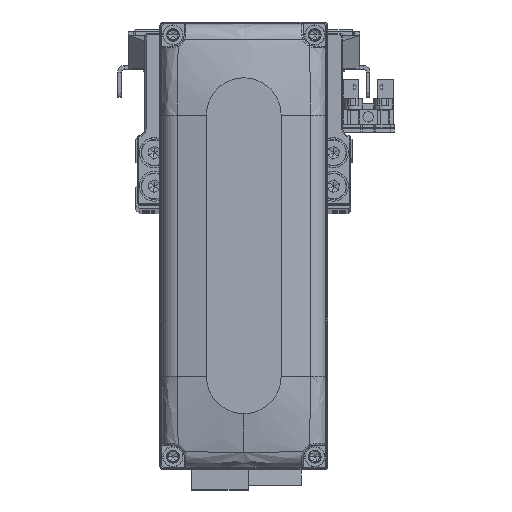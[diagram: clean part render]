
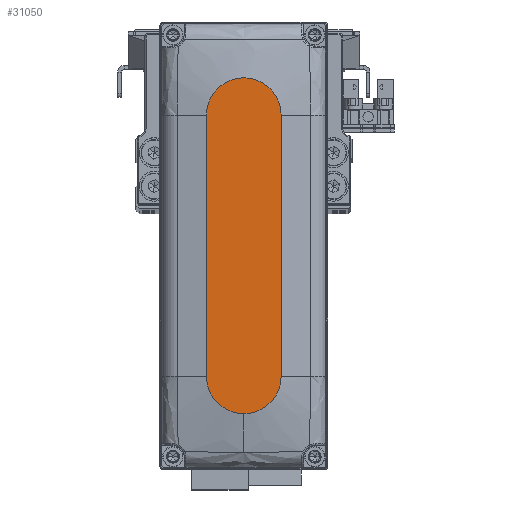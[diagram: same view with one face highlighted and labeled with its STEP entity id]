
A CAD part, top view. The second image highlights one B-rep face of the part: STEP entity #31050.
In plain terms, the highlighted planar face has unit normal (0, 0, 1).
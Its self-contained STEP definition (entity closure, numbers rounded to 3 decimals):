
#835 = DIRECTION ( 'NONE',  ( 1., 0., 0. ) ) ;
#2067 = CARTESIAN_POINT ( 'NONE',  ( 35., 0., 28. ) ) ;
#2654 = AXIS2_PLACEMENT_3D ( 'NONE', #2067, #15633, #29259 ) ;
#2953 = FACE_OUTER_BOUND ( 'NONE', #20122, .T. ) ;
#5756 = LINE ( 'NONE', #19338, #27781 ) ;
#5861 = DIRECTION ( 'NONE',  ( 1., 0., 0. ) ) ;
#6201 = ORIENTED_EDGE ( 'NONE', *, *, #36893, .T. ) ;
#7072 = VERTEX_POINT ( 'NONE', #18995 ) ;
#8774 = LINE ( 'NONE', #22352, #24240 ) ;
#13094 = VERTEX_POINT ( 'NONE', #21994 ) ;
#13215 = DIRECTION ( 'NONE',  ( 1., 0., 0. ) ) ;
#14575 = EDGE_CURVE ( 'NONE', #7072, #37870, #5756, .T. ) ;
#14581 = CIRCLE ( 'NONE', #39533, 10. ) ;
#15633 = DIRECTION ( 'NONE',  ( 0., 0., 1. ) ) ;
#16526 = PLANE ( 'NONE',  #34295 ) ;
#17750 = CARTESIAN_POINT ( 'NONE',  ( 35., 0., 28. ) ) ;
#18848 = CARTESIAN_POINT ( 'NONE',  ( -35., 10., 28. ) ) ;
#18995 = CARTESIAN_POINT ( 'NONE',  ( 35., 10., 28. ) ) ;
#19338 = CARTESIAN_POINT ( 'NONE',  ( -35., 10., 28. ) ) ;
#19945 = ORIENTED_EDGE ( 'NONE', *, *, #38390, .T. ) ;
#20122 = EDGE_LOOP ( 'NONE', ( #41311, #19945, #29042, #41356, #6201 ) ) ;
#21866 = CIRCLE ( 'NONE', #2654, 10. ) ;
#21969 = VERTEX_POINT ( 'NONE', #38686 ) ;
#21994 = CARTESIAN_POINT ( 'NONE',  ( 35., -10., 28. ) ) ;
#22352 = CARTESIAN_POINT ( 'NONE',  ( -35., -10., 28. ) ) ;
#22411 = AXIS2_PLACEMENT_3D ( 'NONE', #17750, #31383, #835 ) ;
#22801 = CARTESIAN_POINT ( 'NONE',  ( -35., 0., 28. ) ) ;
#24240 = VECTOR ( 'NONE', #36001, 1000. ) ;
#25238 = EDGE_CURVE ( 'NONE', #13094, #21969, #21866, .T. ) ;
#26851 = CARTESIAN_POINT ( 'NONE',  ( -35., -10., 28. ) ) ;
#27781 = VECTOR ( 'NONE', #32976, 1000. ) ;
#29042 = ORIENTED_EDGE ( 'NONE', *, *, #32234, .T. ) ;
#29259 = DIRECTION ( 'NONE',  ( 1., 0., 0. ) ) ;
#30162 = CARTESIAN_POINT ( 'NONE',  ( 0., 0., 28. ) ) ;
#31050 = ADVANCED_FACE ( 'NONE', ( #2953 ), #16526, .T. ) ;
#31383 = DIRECTION ( 'NONE',  ( 0., 0., 1. ) ) ;
#32234 = EDGE_CURVE ( 'NONE', #39804, #13094, #8774, .T. ) ;
#32976 = DIRECTION ( 'NONE',  ( -1., 0., 0. ) ) ;
#34295 = AXIS2_PLACEMENT_3D ( 'NONE', #30162, #43777, #13215 ) ;
#36001 = DIRECTION ( 'NONE',  ( 1., 0., 0. ) ) ;
#36442 = DIRECTION ( 'NONE',  ( 0., 0., 1. ) ) ;
#36893 = EDGE_CURVE ( 'NONE', #21969, #7072, #41689, .T. ) ;
#37870 = VERTEX_POINT ( 'NONE', #18848 ) ;
#38390 = EDGE_CURVE ( 'NONE', #37870, #39804, #14581, .T. ) ;
#38686 = CARTESIAN_POINT ( 'NONE',  ( 45., 0., 28. ) ) ;
#39533 = AXIS2_PLACEMENT_3D ( 'NONE', #22801, #36442, #5861 ) ;
#39804 = VERTEX_POINT ( 'NONE', #26851 ) ;
#41311 = ORIENTED_EDGE ( 'NONE', *, *, #14575, .T. ) ;
#41356 = ORIENTED_EDGE ( 'NONE', *, *, #25238, .T. ) ;
#41689 = CIRCLE ( 'NONE', #22411, 10. ) ;
#43777 = DIRECTION ( 'NONE',  ( 0., 0., 1. ) ) ;
